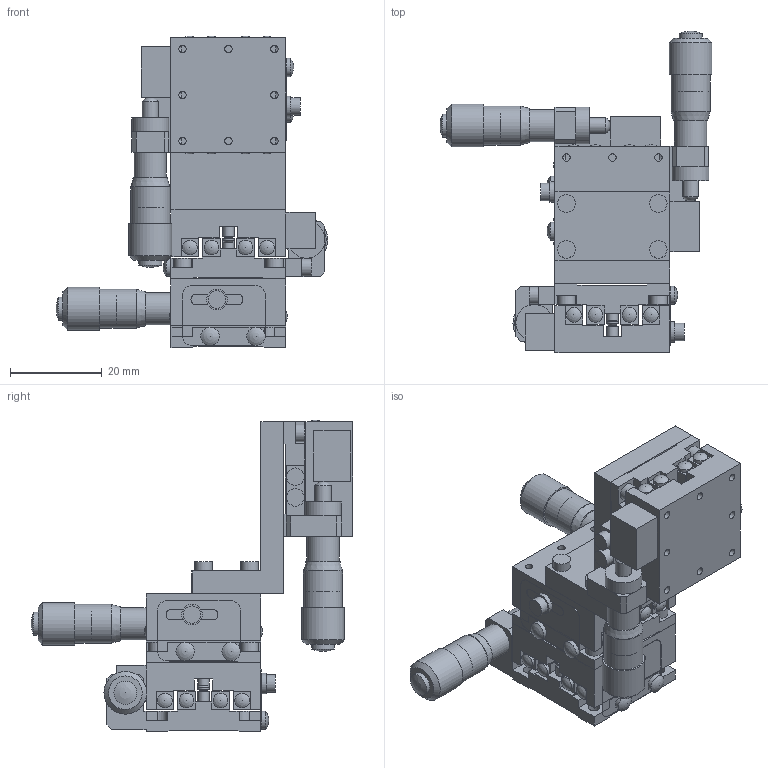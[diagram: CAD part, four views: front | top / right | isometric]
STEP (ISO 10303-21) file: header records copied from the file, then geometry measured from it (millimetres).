
FILE_DESCRIPTION( ( 'STEP AP203' ), '1' );
FILE_NAME( 'C:/3D-Trans/3D_B71-25CN+090217.step', '2009-02-17T04:54:42', ( ' ' ), ( ' ' ), 'XStep 1.0', ' ', ' ' );
FILE_SCHEMA( ( 'CONFIG_CONTROL_DESIGN' ) );
Length unit declared in the file: millimetre
Products named in the file (10): 1; 2; 3; 4; 5; 6; 7; 8; 9; 10
Bounding box: 59.15 x 70 x 67.8 mm (x, y, z)
Volume: 38458.5 mm3; surface area: 26512.2 mm2
Topology: 10 solids, 10 shells, 668 faces, 1730 edges, 1145 vertices
Faces by surface type: plane 407, cylinder 180, cone 45, sphere 36
Full cylindrical faces by diameter (mm): 1.6 x42, 2 x3, 2.5 x20, 3.2 x24, 3.5 x6, 3.8 x21, 4 x6, 4.5 x6, 5 x4, 5.5 x3, 7 x3, 8 x3, 8.1 x3, 8.5 x3, 9.3 x3
Entity records: 18443 total; most frequent: CARTESIAN_POINT 3210, DIRECTION 3075, ORIENTED_EDGE 2700, EDGE_CURVE 1350, AXIS2_PLACEMENT_3D 1065, EDGE_LOOP 986, VERTEX_POINT 984, LINE 945
